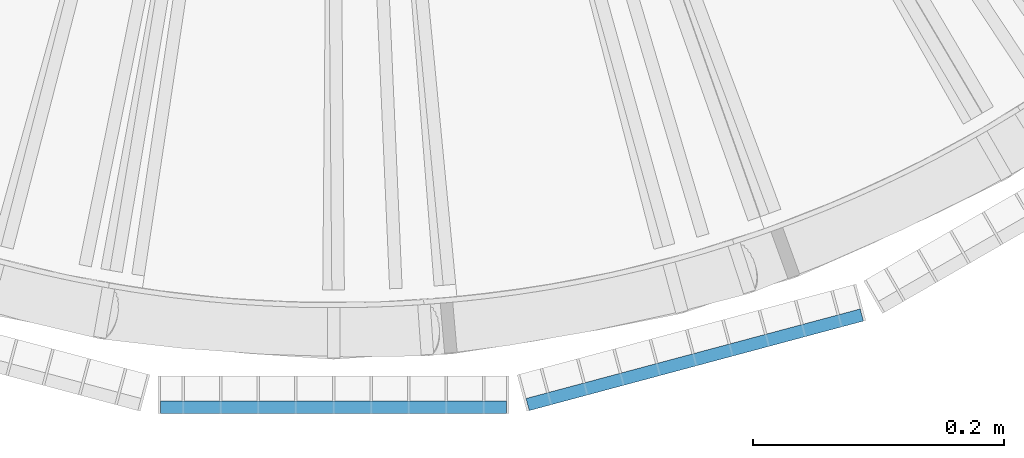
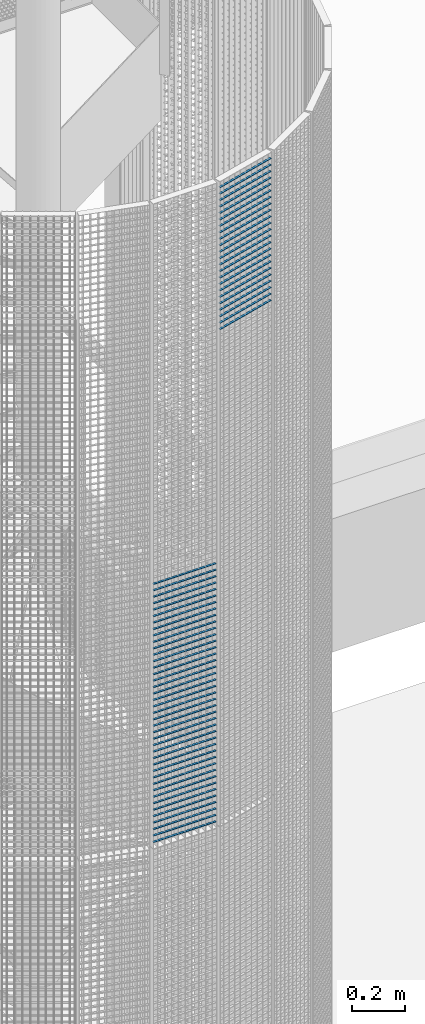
# One storey, part 376 of 1148: 64 beams, 2 elements without a shape of their own.
"""IFC2X3 building model written with IfcOpenShell, lengths in millimetres."""

from ifc_helpers import new_model, si_unit, frame, origin_with_axes, origin_2d_with_axis, place, context, subcontext, project, spatial, rectangle, extrude, material, type_object, element, aggregate, save


model = new_model("IFC2X3")

# Units and contexts
model_context = context("Model", 3, precision=1e-05, world=origin_with_axes())
body_context = subcontext(model_context, "Body", "Model", "MODEL_VIEW")
ifc_project = project(units=[si_unit("LENGTHUNIT", "METRE", prefix="MILLI"), si_unit("AREAUNIT", "SQUARE_METRE"), si_unit("VOLUMEUNIT", "CUBIC_METRE"), si_unit("MASSUNIT", "GRAM", prefix="KILO"), si_unit("TIMEUNIT", "SECOND"), si_unit("PLANEANGLEUNIT", "RADIAN"), si_unit("SOLIDANGLEUNIT", "STERADIAN"), si_unit("THERMODYNAMICTEMPERATUREUNIT", "DEGREE_CELSIUS"), si_unit("LUMINOUSINTENSITYUNIT", "LUMEN")], contexts=[model_context])

# Site, building, storey
site_placement = place(None, origin_with_axes())
site = spatial("IfcSite", under=ifc_project, at=site_placement, Name="Undefined", CompositionType="ELEMENT")
building_placement = place(site_placement, origin_with_axes())
building = spatial("IfcBuilding", under=site, at=building_placement, Name="Undefined", CompositionType="ELEMENT")
storey_placement = place(building_placement, origin_with_axes())
storey = spatial("IfcBuildingStorey", under=building, at=storey_placement, Name="Undefined", CompositionType="ELEMENT", Elevation=0.0)

# Assembly, beams
assembly_1_placement = place(storey_placement, origin_with_axes())
assembly_1 = element("IfcElementAssembly", 1, at=assembly_1_placement, inside=storey, Name="BORDURE", AssemblyPlace="NOTDEFINED", PredefinedType="NOTDEFINED")
ifc_material = material(Name="STEEL/S235JR")
beam_type = type_object("IfcBeamType", Name="PL2*10", PredefinedType="NOTDEFINED")
beam_1_placement = place(assembly_1_placement, frame((21737.9960033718, -1113.47999999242, 16230.0), z_axis=(0.0, -1.0, 0.0), x_axis=(-1.0, 0.0, 0.0)))
beam_1 = element("IfcBeam", 2, at=beam_1_placement, type_object=beam_type, material=ifc_material, Name="ENTRETOISE", context=body_context, shape_type="SweptSolid", body=[
    extrude(rectangle(XDim=2.0, YDim=10.0, at=origin_2d_with_axis()), frame((275.999999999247, 9.09494701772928e-13, 1.53210777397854e-14), z_axis=(-1.0, 0.0, 0.0), x_axis=(0.0, -1.0, 0.0)), (0.0, 0.0, 1.0), 276.0),
])
beam_2_placement = place(assembly_1_placement, frame((21737.9960033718, -1113.47999999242, 16200.0), z_axis=(0.0, -1.0, 0.0), x_axis=(-1.0, 0.0, 0.0)))
beam_2 = element("IfcBeam", 3, at=beam_2_placement, type_object=beam_type, material=ifc_material, Name="ENTRETOISE", context=body_context, shape_type="SweptSolid", body=[
    extrude(rectangle(XDim=2.0, YDim=10.0, at=origin_2d_with_axis()), frame((275.999999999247, 9.09494701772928e-13, 1.53210777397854e-14), z_axis=(-1.0, 0.0, 0.0), x_axis=(0.0, -1.0, 0.0)), (0.0, 0.0, 1.0), 276.0),
])
beam_3_placement = place(assembly_1_placement, frame((21737.9960033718, -1113.47999999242, 16170.0), z_axis=(0.0, -1.0, 0.0), x_axis=(-1.0, 0.0, 0.0)))
beam_3 = element("IfcBeam", 4, at=beam_3_placement, type_object=beam_type, material=ifc_material, Name="ENTRETOISE", context=body_context, shape_type="SweptSolid", body=[
    extrude(rectangle(XDim=2.0, YDim=10.0, at=origin_2d_with_axis()), frame((275.999999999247, 9.09494701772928e-13, 1.53210777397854e-14), z_axis=(-1.0, 0.0, 0.0), x_axis=(0.0, -1.0, 0.0)), (0.0, 0.0, 1.0), 276.0),
])
beam_4_placement = place(assembly_1_placement, frame((21737.9960033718, -1113.47999999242, 16140.0), z_axis=(0.0, -1.0, 0.0), x_axis=(-1.0, 0.0, 0.0)))
beam_4 = element("IfcBeam", 5, at=beam_4_placement, type_object=beam_type, material=ifc_material, Name="ENTRETOISE", context=body_context, shape_type="SweptSolid", body=[
    extrude(rectangle(XDim=2.0, YDim=10.0, at=origin_2d_with_axis()), frame((275.999999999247, 9.09494701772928e-13, 1.53210777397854e-14), z_axis=(-1.0, 0.0, 0.0), x_axis=(0.0, -1.0, 0.0)), (0.0, 0.0, 1.0), 276.0),
])
beam_5_placement = place(assembly_1_placement, frame((21737.9960033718, -1113.47999999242, 15720.0), z_axis=(0.0, -1.0, 0.0), x_axis=(-1.0, 0.0, 0.0)))
beam_5 = element("IfcBeam", 6, at=beam_5_placement, type_object=beam_type, material=ifc_material, Name="ENTRETOISE", context=body_context, shape_type="SweptSolid", body=[
    extrude(rectangle(XDim=2.0, YDim=10.0, at=origin_2d_with_axis()), frame((275.999999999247, 9.09494701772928e-13, 1.53210777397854e-14), z_axis=(-1.0, 0.0, 0.0), x_axis=(0.0, -1.0, 0.0)), (0.0, 0.0, 1.0), 276.0),
])
beam_6_placement = place(assembly_1_placement, frame((21737.9960033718, -1113.47999999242, 15690.0), z_axis=(0.0, -1.0, 0.0), x_axis=(-1.0, 0.0, 0.0)))
beam_6 = element("IfcBeam", 7, at=beam_6_placement, type_object=beam_type, material=ifc_material, Name="ENTRETOISE", context=body_context, shape_type="SweptSolid", body=[
    extrude(rectangle(XDim=2.0, YDim=10.0, at=origin_2d_with_axis()), frame((275.999999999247, 9.09494701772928e-13, 1.53210777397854e-14), z_axis=(-1.0, 0.0, 0.0), x_axis=(0.0, -1.0, 0.0)), (0.0, 0.0, 1.0), 276.0),
])
beam_7_placement = place(assembly_1_placement, frame((21737.9960033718, -1113.47999999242, 15750.0), z_axis=(0.0, -1.0, 0.0), x_axis=(-1.0, 0.0, 0.0)))
beam_7 = element("IfcBeam", 8, at=beam_7_placement, type_object=beam_type, material=ifc_material, Name="ENTRETOISE", context=body_context, shape_type="SweptSolid", body=[
    extrude(rectangle(XDim=2.0, YDim=10.0, at=origin_2d_with_axis()), frame((275.999999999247, 9.09494701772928e-13, 1.53210777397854e-14), z_axis=(-1.0, 0.0, 0.0), x_axis=(0.0, -1.0, 0.0)), (0.0, 0.0, 1.0), 276.0),
])
beam_8_placement = place(assembly_1_placement, frame((21737.9960033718, -1113.47999999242, 15660.0), z_axis=(0.0, -1.0, 0.0), x_axis=(-1.0, 0.0, 0.0)))
beam_8 = element("IfcBeam", 9, at=beam_8_placement, type_object=beam_type, material=ifc_material, Name="ENTRETOISE", context=body_context, shape_type="SweptSolid", body=[
    extrude(rectangle(XDim=2.0, YDim=10.0, at=origin_2d_with_axis()), frame((275.999999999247, 9.09494701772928e-13, 1.53210777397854e-14), z_axis=(-1.0, 0.0, 0.0), x_axis=(0.0, -1.0, 0.0)), (0.0, 0.0, 1.0), 276.0),
])
beam_9_placement = place(assembly_1_placement, frame((21737.9960033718, -1113.47999999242, 15630.0), z_axis=(0.0, -1.0, 0.0), x_axis=(-1.0, 0.0, 0.0)))
beam_9 = element("IfcBeam", 10, at=beam_9_placement, type_object=beam_type, material=ifc_material, Name="ENTRETOISE", context=body_context, shape_type="SweptSolid", body=[
    extrude(rectangle(XDim=2.0, YDim=10.0, at=origin_2d_with_axis()), frame((275.999999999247, 9.09494701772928e-13, 1.53210777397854e-14), z_axis=(-1.0, 0.0, 0.0), x_axis=(0.0, -1.0, 0.0)), (0.0, 0.0, 1.0), 276.0),
])
beam_10_placement = place(assembly_1_placement, frame((21737.9960033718, -1113.47999999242, 15780.0), z_axis=(0.0, -1.0, 0.0), x_axis=(-1.0, 0.0, 0.0)))
beam_10 = element("IfcBeam", 11, at=beam_10_placement, type_object=beam_type, material=ifc_material, Name="ENTRETOISE", context=body_context, shape_type="SweptSolid", body=[
    extrude(rectangle(XDim=2.0, YDim=10.0, at=origin_2d_with_axis()), frame((275.999999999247, 9.09494701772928e-13, 1.53210777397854e-14), z_axis=(-1.0, 0.0, 0.0), x_axis=(0.0, -1.0, 0.0)), (0.0, 0.0, 1.0), 276.0),
])
beam_11_placement = place(assembly_1_placement, frame((21737.9960033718, -1113.47999999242, 15600.0), z_axis=(0.0, -1.0, 0.0), x_axis=(-1.0, 0.0, 0.0)))
beam_11 = element("IfcBeam", 12, at=beam_11_placement, type_object=beam_type, material=ifc_material, Name="ENTRETOISE", context=body_context, shape_type="SweptSolid", body=[
    extrude(rectangle(XDim=2.0, YDim=10.0, at=origin_2d_with_axis()), frame((275.999999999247, 9.09494701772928e-13, 1.53210777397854e-14), z_axis=(-1.0, 0.0, 0.0), x_axis=(0.0, -1.0, 0.0)), (0.0, 0.0, 1.0), 276.0),
])
beam_12_placement = place(assembly_1_placement, frame((21737.9960033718, -1113.47999999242, 15810.0), z_axis=(0.0, -1.0, 0.0), x_axis=(-1.0, 0.0, 0.0)))
beam_12 = element("IfcBeam", 13, at=beam_12_placement, type_object=beam_type, material=ifc_material, Name="ENTRETOISE", context=body_context, shape_type="SweptSolid", body=[
    extrude(rectangle(XDim=2.0, YDim=10.0, at=origin_2d_with_axis()), frame((275.999999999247, 9.09494701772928e-13, 1.53210777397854e-14), z_axis=(-1.0, 0.0, 0.0), x_axis=(0.0, -1.0, 0.0)), (0.0, 0.0, 1.0), 276.0),
])
beam_13_placement = place(assembly_1_placement, frame((21737.9960033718, -1113.47999999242, 15570.0), z_axis=(0.0, -1.0, 0.0), x_axis=(-1.0, 0.0, 0.0)))
beam_13 = element("IfcBeam", 14, at=beam_13_placement, type_object=beam_type, material=ifc_material, Name="ENTRETOISE", context=body_context, shape_type="SweptSolid", body=[
    extrude(rectangle(XDim=2.0, YDim=10.0, at=origin_2d_with_axis()), frame((275.999999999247, 9.09494701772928e-13, 1.53210777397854e-14), z_axis=(-1.0, 0.0, 0.0), x_axis=(0.0, -1.0, 0.0)), (0.0, 0.0, 1.0), 276.0),
])
beam_14_placement = place(assembly_1_placement, frame((21737.9960033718, -1113.47999999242, 15540.0), z_axis=(0.0, -1.0, 0.0), x_axis=(-1.0, 0.0, 0.0)))
beam_14 = element("IfcBeam", 15, at=beam_14_placement, type_object=beam_type, material=ifc_material, Name="ENTRETOISE", context=body_context, shape_type="SweptSolid", body=[
    extrude(rectangle(XDim=2.0, YDim=10.0, at=origin_2d_with_axis()), frame((275.999999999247, 9.09494701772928e-13, 1.53210777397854e-14), z_axis=(-1.0, 0.0, 0.0), x_axis=(0.0, -1.0, 0.0)), (0.0, 0.0, 1.0), 276.0),
])
beam_15_placement = place(assembly_1_placement, frame((21737.9960033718, -1113.47999999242, 15840.0), z_axis=(0.0, -1.0, 0.0), x_axis=(-1.0, 0.0, 0.0)))
beam_15 = element("IfcBeam", 16, at=beam_15_placement, type_object=beam_type, material=ifc_material, Name="ENTRETOISE", context=body_context, shape_type="SweptSolid", body=[
    extrude(rectangle(XDim=2.0, YDim=10.0, at=origin_2d_with_axis()), frame((275.999999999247, 9.09494701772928e-13, 1.53210777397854e-14), z_axis=(-1.0, 0.0, 0.0), x_axis=(0.0, -1.0, 0.0)), (0.0, 0.0, 1.0), 276.0),
])
beam_16_placement = place(assembly_1_placement, frame((21737.9960033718, -1113.47999999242, 15510.0), z_axis=(0.0, -1.0, 0.0), x_axis=(-1.0, 0.0, 0.0)))
beam_16 = element("IfcBeam", 17, at=beam_16_placement, type_object=beam_type, material=ifc_material, Name="ENTRETOISE", context=body_context, shape_type="SweptSolid", body=[
    extrude(rectangle(XDim=2.0, YDim=10.0, at=origin_2d_with_axis()), frame((275.999999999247, 9.09494701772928e-13, 1.53210777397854e-14), z_axis=(-1.0, 0.0, 0.0), x_axis=(0.0, -1.0, 0.0)), (0.0, 0.0, 1.0), 276.0),
])
beam_17_placement = place(assembly_1_placement, frame((21737.9960033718, -1113.47999999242, 15480.0), z_axis=(0.0, -1.0, 0.0), x_axis=(-1.0, 0.0, 0.0)))
beam_17 = element("IfcBeam", 18, at=beam_17_placement, type_object=beam_type, material=ifc_material, Name="ENTRETOISE", context=body_context, shape_type="SweptSolid", body=[
    extrude(rectangle(XDim=2.0, YDim=10.0, at=origin_2d_with_axis()), frame((275.999999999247, 9.09494701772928e-13, 1.53210777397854e-14), z_axis=(-1.0, 0.0, 0.0), x_axis=(0.0, -1.0, 0.0)), (0.0, 0.0, 1.0), 276.0),
])
beam_18_placement = place(assembly_1_placement, frame((21737.9960033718, -1113.47999999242, 15870.0), z_axis=(0.0, -1.0, 0.0), x_axis=(-1.0, 0.0, 0.0)))
beam_18 = element("IfcBeam", 19, at=beam_18_placement, type_object=beam_type, material=ifc_material, Name="ENTRETOISE", context=body_context, shape_type="SweptSolid", body=[
    extrude(rectangle(XDim=2.0, YDim=10.0, at=origin_2d_with_axis()), frame((275.999999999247, 9.09494701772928e-13, 1.53210777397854e-14), z_axis=(-1.0, 0.0, 0.0), x_axis=(0.0, -1.0, 0.0)), (0.0, 0.0, 1.0), 276.0),
])
beam_19_placement = place(assembly_1_placement, frame((21737.9960033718, -1113.47999999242, 15450.0), z_axis=(0.0, -1.0, 0.0), x_axis=(-1.0, 0.0, 0.0)))
beam_19 = element("IfcBeam", 20, at=beam_19_placement, type_object=beam_type, material=ifc_material, Name="ENTRETOISE", context=body_context, shape_type="SweptSolid", body=[
    extrude(rectangle(XDim=2.0, YDim=10.0, at=origin_2d_with_axis()), frame((275.999999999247, 9.09494701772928e-13, 1.53210777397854e-14), z_axis=(-1.0, 0.0, 0.0), x_axis=(0.0, -1.0, 0.0)), (0.0, 0.0, 1.0), 276.0),
])
beam_20_placement = place(assembly_1_placement, frame((21737.9960033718, -1113.47999999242, 15420.0), z_axis=(0.0, -1.0, 0.0), x_axis=(-1.0, 0.0, 0.0)))
beam_20 = element("IfcBeam", 21, at=beam_20_placement, type_object=beam_type, material=ifc_material, Name="ENTRETOISE", context=body_context, shape_type="SweptSolid", body=[
    extrude(rectangle(XDim=2.0, YDim=10.0, at=origin_2d_with_axis()), frame((275.999999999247, 9.09494701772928e-13, 1.53210777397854e-14), z_axis=(-1.0, 0.0, 0.0), x_axis=(0.0, -1.0, 0.0)), (0.0, 0.0, 1.0), 276.0),
])
beam_21_placement = place(assembly_1_placement, frame((21737.9960033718, -1113.47999999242, 15900.0), z_axis=(0.0, -1.0, 0.0), x_axis=(-1.0, 0.0, 0.0)))
beam_21 = element("IfcBeam", 22, at=beam_21_placement, type_object=beam_type, material=ifc_material, Name="ENTRETOISE", context=body_context, shape_type="SweptSolid", body=[
    extrude(rectangle(XDim=2.0, YDim=10.0, at=origin_2d_with_axis()), frame((275.999999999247, 9.09494701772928e-13, 1.53210777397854e-14), z_axis=(-1.0, 0.0, 0.0), x_axis=(0.0, -1.0, 0.0)), (0.0, 0.0, 1.0), 276.0),
])
beam_22_placement = place(assembly_1_placement, frame((21737.9960033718, -1113.47999999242, 15390.0), z_axis=(0.0, -1.0, 0.0), x_axis=(-1.0, 0.0, 0.0)))
beam_22 = element("IfcBeam", 23, at=beam_22_placement, type_object=beam_type, material=ifc_material, Name="ENTRETOISE", context=body_context, shape_type="SweptSolid", body=[
    extrude(rectangle(XDim=2.0, YDim=10.0, at=origin_2d_with_axis()), frame((275.999999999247, 9.09494701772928e-13, 1.53210777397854e-14), z_axis=(-1.0, 0.0, 0.0), x_axis=(0.0, -1.0, 0.0)), (0.0, 0.0, 1.0), 276.0),
])
beam_23_placement = place(assembly_1_placement, frame((21737.9960033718, -1113.47999999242, 15930.0), z_axis=(0.0, -1.0, 0.0), x_axis=(-1.0, 0.0, 0.0)))
beam_23 = element("IfcBeam", 24, at=beam_23_placement, type_object=beam_type, material=ifc_material, Name="ENTRETOISE", context=body_context, shape_type="SweptSolid", body=[
    extrude(rectangle(XDim=2.0, YDim=10.0, at=origin_2d_with_axis()), frame((275.999999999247, 9.09494701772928e-13, 1.53210777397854e-14), z_axis=(-1.0, 0.0, 0.0), x_axis=(0.0, -1.0, 0.0)), (0.0, 0.0, 1.0), 276.0),
])
beam_24_placement = place(assembly_1_placement, frame((21737.9960033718, -1113.47999999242, 15360.0), z_axis=(0.0, -1.0, 0.0), x_axis=(-1.0, 0.0, 0.0)))
beam_24 = element("IfcBeam", 25, at=beam_24_placement, type_object=beam_type, material=ifc_material, Name="ENTRETOISE", context=body_context, shape_type="SweptSolid", body=[
    extrude(rectangle(XDim=2.0, YDim=10.0, at=origin_2d_with_axis()), frame((275.999999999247, 9.09494701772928e-13, 1.53210777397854e-14), z_axis=(-1.0, 0.0, 0.0), x_axis=(0.0, -1.0, 0.0)), (0.0, 0.0, 1.0), 276.0),
])
beam_25_placement = place(assembly_1_placement, frame((21737.9960033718, -1113.47999999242, 15330.0), z_axis=(0.0, -1.0, 0.0), x_axis=(-1.0, 0.0, 0.0)))
beam_25 = element("IfcBeam", 26, at=beam_25_placement, type_object=beam_type, material=ifc_material, Name="ENTRETOISE", context=body_context, shape_type="SweptSolid", body=[
    extrude(rectangle(XDim=2.0, YDim=10.0, at=origin_2d_with_axis()), frame((275.999999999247, 9.09494701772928e-13, 1.53210777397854e-14), z_axis=(-1.0, 0.0, 0.0), x_axis=(0.0, -1.0, 0.0)), (0.0, 0.0, 1.0), 276.0),
])
beam_26_placement = place(assembly_1_placement, frame((21737.9960033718, -1113.47999999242, 15960.0), z_axis=(0.0, -1.0, 0.0), x_axis=(-1.0, 0.0, 0.0)))
beam_26 = element("IfcBeam", 27, at=beam_26_placement, type_object=beam_type, material=ifc_material, Name="ENTRETOISE", context=body_context, shape_type="SweptSolid", body=[
    extrude(rectangle(XDim=2.0, YDim=10.0, at=origin_2d_with_axis()), frame((275.999999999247, 9.09494701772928e-13, 1.53210777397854e-14), z_axis=(-1.0, 0.0, 0.0), x_axis=(0.0, -1.0, 0.0)), (0.0, 0.0, 1.0), 276.0),
])
beam_27_placement = place(assembly_1_placement, frame((21737.9960033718, -1113.47999999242, 15300.0), z_axis=(0.0, -1.0, 0.0), x_axis=(-1.0, 0.0, 0.0)))
beam_27 = element("IfcBeam", 28, at=beam_27_placement, type_object=beam_type, material=ifc_material, Name="ENTRETOISE", context=body_context, shape_type="SweptSolid", body=[
    extrude(rectangle(XDim=2.0, YDim=10.0, at=origin_2d_with_axis()), frame((275.999999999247, 9.09494701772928e-13, 1.53210777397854e-14), z_axis=(-1.0, 0.0, 0.0), x_axis=(0.0, -1.0, 0.0)), (0.0, 0.0, 1.0), 276.0),
])
beam_28_placement = place(assembly_1_placement, frame((21737.9960033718, -1113.47999999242, 15270.0), z_axis=(0.0, -1.0, 0.0), x_axis=(-1.0, 0.0, 0.0)))
beam_28 = element("IfcBeam", 29, at=beam_28_placement, type_object=beam_type, material=ifc_material, Name="ENTRETOISE", context=body_context, shape_type="SweptSolid", body=[
    extrude(rectangle(XDim=2.0, YDim=10.0, at=origin_2d_with_axis()), frame((275.999999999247, 9.09494701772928e-13, 1.53210777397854e-14), z_axis=(-1.0, 0.0, 0.0), x_axis=(0.0, -1.0, 0.0)), (0.0, 0.0, 1.0), 276.0),
])
beam_29_placement = place(assembly_1_placement, frame((21737.9960033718, -1113.47999999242, 15990.0), z_axis=(0.0, -1.0, 0.0), x_axis=(-1.0, 0.0, 0.0)))
beam_29 = element("IfcBeam", 30, at=beam_29_placement, type_object=beam_type, material=ifc_material, Name="ENTRETOISE", context=body_context, shape_type="SweptSolid", body=[
    extrude(rectangle(XDim=2.0, YDim=10.0, at=origin_2d_with_axis()), frame((275.999999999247, 9.09494701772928e-13, 1.53210777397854e-14), z_axis=(-1.0, 0.0, 0.0), x_axis=(0.0, -1.0, 0.0)), (0.0, 0.0, 1.0), 276.0),
])
beam_30_placement = place(assembly_1_placement, frame((21737.9960033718, -1113.47999999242, 15240.0), z_axis=(0.0, -1.0, 0.0), x_axis=(-1.0, 0.0, 0.0)))
beam_30 = element("IfcBeam", 31, at=beam_30_placement, type_object=beam_type, material=ifc_material, Name="ENTRETOISE", context=body_context, shape_type="SweptSolid", body=[
    extrude(rectangle(XDim=2.0, YDim=10.0, at=origin_2d_with_axis()), frame((275.999999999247, 9.09494701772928e-13, 1.53210777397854e-14), z_axis=(-1.0, 0.0, 0.0), x_axis=(0.0, -1.0, 0.0)), (0.0, 0.0, 1.0), 276.0),
])
beam_31_placement = place(assembly_1_placement, frame((21737.9960033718, -1113.47999999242, 16020.0), z_axis=(0.0, -1.0, 0.0), x_axis=(-1.0, 0.0, 0.0)))
beam_31 = element("IfcBeam", 32, at=beam_31_placement, type_object=beam_type, material=ifc_material, Name="ENTRETOISE", context=body_context, shape_type="SweptSolid", body=[
    extrude(rectangle(XDim=2.0, YDim=10.0, at=origin_2d_with_axis()), frame((275.999999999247, 9.09494701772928e-13, 1.53210777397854e-14), z_axis=(-1.0, 0.0, 0.0), x_axis=(0.0, -1.0, 0.0)), (0.0, 0.0, 1.0), 276.0),
])
beam_32_placement = place(assembly_1_placement, frame((21737.9960033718, -1113.47999999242, 15210.0), z_axis=(0.0, -1.0, 0.0), x_axis=(-1.0, 0.0, 0.0)))
beam_32 = element("IfcBeam", 33, at=beam_32_placement, type_object=beam_type, material=ifc_material, Name="ENTRETOISE", context=body_context, shape_type="SweptSolid", body=[
    extrude(rectangle(XDim=2.0, YDim=10.0, at=origin_2d_with_axis()), frame((275.999999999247, 9.09494701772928e-13, 1.53210777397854e-14), z_axis=(-1.0, 0.0, 0.0), x_axis=(0.0, -1.0, 0.0)), (0.0, 0.0, 1.0), 276.0),
])
beam_33_placement = place(assembly_1_placement, frame((21737.9960033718, -1113.47999999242, 15180.0), z_axis=(0.0, -1.0, 0.0), x_axis=(-1.0, 0.0, 0.0)))
beam_33 = element("IfcBeam", 34, at=beam_33_placement, type_object=beam_type, material=ifc_material, Name="ENTRETOISE", context=body_context, shape_type="SweptSolid", body=[
    extrude(rectangle(XDim=2.0, YDim=10.0, at=origin_2d_with_axis()), frame((275.999999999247, 9.09494701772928e-13, 1.53210777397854e-14), z_axis=(-1.0, 0.0, 0.0), x_axis=(0.0, -1.0, 0.0)), (0.0, 0.0, 1.0), 276.0),
])
beam_34_placement = place(assembly_1_placement, frame((21737.9960033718, -1113.47999999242, 16050.0), z_axis=(0.0, -1.0, 0.0), x_axis=(-1.0, 0.0, 0.0)))
beam_34 = element("IfcBeam", 35, at=beam_34_placement, type_object=beam_type, material=ifc_material, Name="ENTRETOISE", context=body_context, shape_type="SweptSolid", body=[
    extrude(rectangle(XDim=2.0, YDim=10.0, at=origin_2d_with_axis()), frame((275.999999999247, 9.09494701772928e-13, 1.53210777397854e-14), z_axis=(-1.0, 0.0, 0.0), x_axis=(0.0, -1.0, 0.0)), (0.0, 0.0, 1.0), 276.0),
])
beam_35_placement = place(assembly_1_placement, frame((21737.9960033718, -1113.47999999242, 15150.0), z_axis=(0.0, -1.0, 0.0), x_axis=(-1.0, 0.0, 0.0)))
beam_35 = element("IfcBeam", 36, at=beam_35_placement, type_object=beam_type, material=ifc_material, Name="ENTRETOISE", context=body_context, shape_type="SweptSolid", body=[
    extrude(rectangle(XDim=2.0, YDim=10.0, at=origin_2d_with_axis()), frame((275.999999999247, 9.09494701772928e-13, 1.53210777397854e-14), z_axis=(-1.0, 0.0, 0.0), x_axis=(0.0, -1.0, 0.0)), (0.0, 0.0, 1.0), 276.0),
])
beam_36_placement = place(assembly_1_placement, frame((21737.9960033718, -1113.47999999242, 15120.0), z_axis=(0.0, -1.0, 0.0), x_axis=(-1.0, 0.0, 0.0)))
beam_36 = element("IfcBeam", 37, at=beam_36_placement, type_object=beam_type, material=ifc_material, Name="ENTRETOISE", context=body_context, shape_type="SweptSolid", body=[
    extrude(rectangle(XDim=2.0, YDim=10.0, at=origin_2d_with_axis()), frame((275.999999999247, 9.09494701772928e-13, 1.53210777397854e-14), z_axis=(-1.0, 0.0, 0.0), x_axis=(0.0, -1.0, 0.0)), (0.0, 0.0, 1.0), 276.0),
])
beam_37_placement = place(assembly_1_placement, frame((21737.9960033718, -1113.47999999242, 16080.0), z_axis=(0.0, -1.0, 0.0), x_axis=(-1.0, 0.0, 0.0)))
beam_37 = element("IfcBeam", 38, at=beam_37_placement, type_object=beam_type, material=ifc_material, Name="ENTRETOISE", context=body_context, shape_type="SweptSolid", body=[
    extrude(rectangle(XDim=2.0, YDim=10.0, at=origin_2d_with_axis()), frame((275.999999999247, 9.09494701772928e-13, 1.53210777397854e-14), z_axis=(-1.0, 0.0, 0.0), x_axis=(0.0, -1.0, 0.0)), (0.0, 0.0, 1.0), 276.0),
])
beam_38_placement = place(assembly_1_placement, frame((21737.9960033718, -1113.47999999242, 15090.0), z_axis=(0.0, -1.0, 0.0), x_axis=(-1.0, 0.0, 0.0)))
beam_38 = element("IfcBeam", 39, at=beam_38_placement, type_object=beam_type, material=ifc_material, Name="ENTRETOISE", context=body_context, shape_type="SweptSolid", body=[
    extrude(rectangle(XDim=2.0, YDim=10.0, at=origin_2d_with_axis()), frame((275.999999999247, 9.09494701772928e-13, 1.53210777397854e-14), z_axis=(-1.0, 0.0, 0.0), x_axis=(0.0, -1.0, 0.0)), (0.0, 0.0, 1.0), 276.0),
])
beam_39_placement = place(assembly_1_placement, frame((21737.9960033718, -1113.47999999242, 15060.0), z_axis=(0.0, -1.0, 0.0), x_axis=(-1.0, 0.0, 0.0)))
beam_39 = element("IfcBeam", 40, at=beam_39_placement, type_object=beam_type, material=ifc_material, Name="ENTRETOISE", context=body_context, shape_type="SweptSolid", body=[
    extrude(rectangle(XDim=2.0, YDim=10.0, at=origin_2d_with_axis()), frame((275.999999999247, 9.09494701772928e-13, 1.53210777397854e-14), z_axis=(-1.0, 0.0, 0.0), x_axis=(0.0, -1.0, 0.0)), (0.0, 0.0, 1.0), 276.0),
])
beam_40_placement = place(assembly_1_placement, frame((21737.9960033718, -1113.47999999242, 16110.0), z_axis=(0.0, -1.0, 0.0), x_axis=(-1.0, 0.0, 0.0)))
beam_40 = element("IfcBeam", 41, at=beam_40_placement, type_object=beam_type, material=ifc_material, Name="ENTRETOISE", context=body_context, shape_type="SweptSolid", body=[
    extrude(rectangle(XDim=2.0, YDim=10.0, at=origin_2d_with_axis()), frame((275.999999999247, 9.09494701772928e-13, 1.53210777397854e-14), z_axis=(-1.0, 0.0, 0.0), x_axis=(0.0, -1.0, 0.0)), (0.0, 0.0, 1.0), 276.0),
])
beam_41_placement = place(assembly_1_placement, frame((21737.9960033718, -1113.47999999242, 15030.0), z_axis=(0.0, -1.0, 0.0), x_axis=(-1.0, 0.0, 0.0)))
beam_41 = element("IfcBeam", 42, at=beam_41_placement, type_object=beam_type, material=ifc_material, Name="ENTRETOISE", context=body_context, shape_type="SweptSolid", body=[
    extrude(rectangle(XDim=2.0, YDim=10.0, at=origin_2d_with_axis()), frame((275.999999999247, 9.09494701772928e-13, 1.53210777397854e-14), z_axis=(-1.0, 0.0, 0.0), x_axis=(0.0, -1.0, 0.0)), (0.0, 0.0, 1.0), 276.0),
])
aggregate(assembly_1, [beam_1, beam_2, beam_3, beam_4, beam_5, beam_6, beam_7, beam_8, beam_9, beam_10, beam_11, beam_12, beam_13, beam_14, beam_15, beam_16, beam_17, beam_18, beam_19, beam_20, beam_21, beam_22, beam_23, beam_24, beam_25, beam_26, beam_27, beam_28, beam_29, beam_30, beam_31, beam_32, beam_33, beam_34, beam_35, beam_36, beam_37, beam_38, beam_39, beam_40, beam_41])

assembly_2_placement = place(storey_placement, origin_with_axes())
assembly_2 = element("IfcElementAssembly", 43, at=assembly_2_placement, inside=storey, Name="BORDURE", AssemblyPlace="NOTDEFINED", PredefinedType="NOTDEFINED")
beam_42_placement = place(assembly_2_placement, frame((22021.4837339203, -1039.82309522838, 17970.0), z_axis=(0.258819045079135, -0.965925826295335, 0.0), x_axis=(-0.965925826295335, -0.258819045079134, 0.0)))
beam_42 = element("IfcBeam", 44, at=beam_42_placement, type_object=beam_type, material=ifc_material, Name="ENTRETOISE", context=body_context, shape_type="SweptSolid", body=[
    extrude(rectangle(XDim=2.0, YDim=10.0, at=origin_2d_with_axis()), frame((275.999999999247, 9.09494701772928e-13, 1.53210777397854e-14), z_axis=(-1.0, 0.0, 0.0), x_axis=(0.0, -1.0, 0.0)), (0.0, 0.0, 1.0), 276.0),
])
beam_43_placement = place(assembly_2_placement, frame((22021.4837339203, -1039.82309522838, 17940.0), z_axis=(0.258819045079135, -0.965925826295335, 0.0), x_axis=(-0.965925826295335, -0.258819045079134, 0.0)))
beam_43 = element("IfcBeam", 45, at=beam_43_placement, type_object=beam_type, material=ifc_material, Name="ENTRETOISE", context=body_context, shape_type="SweptSolid", body=[
    extrude(rectangle(XDim=2.0, YDim=10.0, at=origin_2d_with_axis()), frame((275.999999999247, 9.09494701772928e-13, 1.53210777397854e-14), z_axis=(-1.0, 0.0, 0.0), x_axis=(0.0, -1.0, 0.0)), (0.0, 0.0, 1.0), 276.0),
])
beam_44_placement = place(assembly_2_placement, frame((22021.4837339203, -1039.82309522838, 17910.0), z_axis=(0.258819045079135, -0.965925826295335, 0.0), x_axis=(-0.965925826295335, -0.258819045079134, 0.0)))
beam_44 = element("IfcBeam", 46, at=beam_44_placement, type_object=beam_type, material=ifc_material, Name="ENTRETOISE", context=body_context, shape_type="SweptSolid", body=[
    extrude(rectangle(XDim=2.0, YDim=10.0, at=origin_2d_with_axis()), frame((275.999999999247, 9.09494701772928e-13, 1.53210777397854e-14), z_axis=(-1.0, 0.0, 0.0), x_axis=(0.0, -1.0, 0.0)), (0.0, 0.0, 1.0), 276.0),
])
beam_45_placement = place(assembly_2_placement, frame((22021.4837339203, -1039.82309522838, 17880.0), z_axis=(0.258819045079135, -0.965925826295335, 0.0), x_axis=(-0.965925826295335, -0.258819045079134, 0.0)))
beam_45 = element("IfcBeam", 47, at=beam_45_placement, type_object=beam_type, material=ifc_material, Name="ENTRETOISE", context=body_context, shape_type="SweptSolid", body=[
    extrude(rectangle(XDim=2.0, YDim=10.0, at=origin_2d_with_axis()), frame((275.999999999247, 9.09494701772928e-13, 1.53210777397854e-14), z_axis=(-1.0, 0.0, 0.0), x_axis=(0.0, -1.0, 0.0)), (0.0, 0.0, 1.0), 276.0),
])
beam_46_placement = place(assembly_2_placement, frame((22021.4837339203, -1039.82309522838, 17850.0), z_axis=(0.258819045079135, -0.965925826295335, 0.0), x_axis=(-0.965925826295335, -0.258819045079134, 0.0)))
beam_46 = element("IfcBeam", 48, at=beam_46_placement, type_object=beam_type, material=ifc_material, Name="ENTRETOISE", context=body_context, shape_type="SweptSolid", body=[
    extrude(rectangle(XDim=2.0, YDim=10.0, at=origin_2d_with_axis()), frame((275.999999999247, 9.09494701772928e-13, 1.53210777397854e-14), z_axis=(-1.0, 0.0, 0.0), x_axis=(0.0, -1.0, 0.0)), (0.0, 0.0, 1.0), 276.0),
])
beam_47_placement = place(assembly_2_placement, frame((22021.4837339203, -1039.82309522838, 17820.0), z_axis=(0.258819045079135, -0.965925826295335, 0.0), x_axis=(-0.965925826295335, -0.258819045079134, 0.0)))
beam_47 = element("IfcBeam", 49, at=beam_47_placement, type_object=beam_type, material=ifc_material, Name="ENTRETOISE", context=body_context, shape_type="SweptSolid", body=[
    extrude(rectangle(XDim=2.0, YDim=10.0, at=origin_2d_with_axis()), frame((275.999999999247, 9.09494701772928e-13, 1.53210777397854e-14), z_axis=(-1.0, 0.0, 0.0), x_axis=(0.0, -1.0, 0.0)), (0.0, 0.0, 1.0), 276.0),
])
beam_48_placement = place(assembly_2_placement, frame((22021.4837339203, -1039.82309522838, 17790.0), z_axis=(0.258819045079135, -0.965925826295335, 0.0), x_axis=(-0.965925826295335, -0.258819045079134, 0.0)))
beam_48 = element("IfcBeam", 50, at=beam_48_placement, type_object=beam_type, material=ifc_material, Name="ENTRETOISE", context=body_context, shape_type="SweptSolid", body=[
    extrude(rectangle(XDim=2.0, YDim=10.0, at=origin_2d_with_axis()), frame((275.999999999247, 9.09494701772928e-13, 1.53210777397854e-14), z_axis=(-1.0, 0.0, 0.0), x_axis=(0.0, -1.0, 0.0)), (0.0, 0.0, 1.0), 276.0),
])
beam_49_placement = place(assembly_2_placement, frame((22021.4837339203, -1039.82309522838, 17760.0), z_axis=(0.258819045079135, -0.965925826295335, 0.0), x_axis=(-0.965925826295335, -0.258819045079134, 0.0)))
beam_49 = element("IfcBeam", 51, at=beam_49_placement, type_object=beam_type, material=ifc_material, Name="ENTRETOISE", context=body_context, shape_type="SweptSolid", body=[
    extrude(rectangle(XDim=2.0, YDim=10.0, at=origin_2d_with_axis()), frame((275.999999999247, 9.09494701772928e-13, 1.53210777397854e-14), z_axis=(-1.0, 0.0, 0.0), x_axis=(0.0, -1.0, 0.0)), (0.0, 0.0, 1.0), 276.0),
])
beam_50_placement = place(assembly_2_placement, frame((22021.4837339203, -1039.82309522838, 17730.0), z_axis=(0.258819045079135, -0.965925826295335, 0.0), x_axis=(-0.965925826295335, -0.258819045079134, 0.0)))
beam_50 = element("IfcBeam", 52, at=beam_50_placement, type_object=beam_type, material=ifc_material, Name="ENTRETOISE", context=body_context, shape_type="SweptSolid", body=[
    extrude(rectangle(XDim=2.0, YDim=10.0, at=origin_2d_with_axis()), frame((275.999999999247, 9.09494701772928e-13, 1.53210777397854e-14), z_axis=(-1.0, 0.0, 0.0), x_axis=(0.0, -1.0, 0.0)), (0.0, 0.0, 1.0), 276.0),
])
beam_51_placement = place(assembly_2_placement, frame((22021.4837339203, -1039.82309522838, 17700.0), z_axis=(0.258819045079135, -0.965925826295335, 0.0), x_axis=(-0.965925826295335, -0.258819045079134, 0.0)))
beam_51 = element("IfcBeam", 53, at=beam_51_placement, type_object=beam_type, material=ifc_material, Name="ENTRETOISE", context=body_context, shape_type="SweptSolid", body=[
    extrude(rectangle(XDim=2.0, YDim=10.0, at=origin_2d_with_axis()), frame((275.999999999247, 9.09494701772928e-13, 1.53210777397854e-14), z_axis=(-1.0, 0.0, 0.0), x_axis=(0.0, -1.0, 0.0)), (0.0, 0.0, 1.0), 276.0),
])
beam_52_placement = place(assembly_2_placement, frame((22021.4837339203, -1039.82309522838, 17670.0), z_axis=(0.258819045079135, -0.965925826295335, 0.0), x_axis=(-0.965925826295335, -0.258819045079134, 0.0)))
beam_52 = element("IfcBeam", 54, at=beam_52_placement, type_object=beam_type, material=ifc_material, Name="ENTRETOISE", context=body_context, shape_type="SweptSolid", body=[
    extrude(rectangle(XDim=2.0, YDim=10.0, at=origin_2d_with_axis()), frame((275.999999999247, 9.09494701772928e-13, 1.53210777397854e-14), z_axis=(-1.0, 0.0, 0.0), x_axis=(0.0, -1.0, 0.0)), (0.0, 0.0, 1.0), 276.0),
])
beam_53_placement = place(assembly_2_placement, frame((22021.4837339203, -1039.82309522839, 17640.0), z_axis=(0.258819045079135, -0.965925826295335, 0.0), x_axis=(-0.965925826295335, -0.258819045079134, 0.0)))
beam_53 = element("IfcBeam", 55, at=beam_53_placement, type_object=beam_type, material=ifc_material, Name="ENTRETOISE", context=body_context, shape_type="SweptSolid", body=[
    extrude(rectangle(XDim=2.0, YDim=10.0, at=origin_2d_with_axis()), frame((275.999999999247, 9.09494701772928e-13, 1.53210777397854e-14), z_axis=(-1.0, 0.0, 0.0), x_axis=(0.0, -1.0, 0.0)), (0.0, 0.0, 1.0), 276.0),
])
beam_54_placement = place(assembly_2_placement, frame((22021.4837339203, -1039.82309522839, 17610.0), z_axis=(0.258819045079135, -0.965925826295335, 0.0), x_axis=(-0.965925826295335, -0.258819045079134, 0.0)))
beam_54 = element("IfcBeam", 56, at=beam_54_placement, type_object=beam_type, material=ifc_material, Name="ENTRETOISE", context=body_context, shape_type="SweptSolid", body=[
    extrude(rectangle(XDim=2.0, YDim=10.0, at=origin_2d_with_axis()), frame((275.999999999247, 9.09494701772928e-13, 1.53210777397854e-14), z_axis=(-1.0, 0.0, 0.0), x_axis=(0.0, -1.0, 0.0)), (0.0, 0.0, 1.0), 276.0),
])
beam_55_placement = place(assembly_2_placement, frame((22021.4837339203, -1039.82309522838, 17580.0), z_axis=(0.258819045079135, -0.965925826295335, 0.0), x_axis=(-0.965925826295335, -0.258819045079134, 0.0)))
beam_55 = element("IfcBeam", 57, at=beam_55_placement, type_object=beam_type, material=ifc_material, Name="ENTRETOISE", context=body_context, shape_type="SweptSolid", body=[
    extrude(rectangle(XDim=2.0, YDim=10.0, at=origin_2d_with_axis()), frame((275.999999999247, 9.09494701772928e-13, 1.53210777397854e-14), z_axis=(-1.0, 0.0, 0.0), x_axis=(0.0, -1.0, 0.0)), (0.0, 0.0, 1.0), 276.0),
])
beam_56_placement = place(assembly_2_placement, frame((22021.4837339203, -1039.82309522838, 17550.0), z_axis=(0.258819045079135, -0.965925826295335, 0.0), x_axis=(-0.965925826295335, -0.258819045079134, 0.0)))
beam_56 = element("IfcBeam", 58, at=beam_56_placement, type_object=beam_type, material=ifc_material, Name="ENTRETOISE", context=body_context, shape_type="SweptSolid", body=[
    extrude(rectangle(XDim=2.0, YDim=10.0, at=origin_2d_with_axis()), frame((275.999999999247, 9.09494701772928e-13, 1.53210777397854e-14), z_axis=(-1.0, 0.0, 0.0), x_axis=(0.0, -1.0, 0.0)), (0.0, 0.0, 1.0), 276.0),
])
beam_57_placement = place(assembly_2_placement, frame((22021.4837339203, -1039.82309522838, 17520.0), z_axis=(0.258819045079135, -0.965925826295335, 0.0), x_axis=(-0.965925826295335, -0.258819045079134, 0.0)))
beam_57 = element("IfcBeam", 59, at=beam_57_placement, type_object=beam_type, material=ifc_material, Name="ENTRETOISE", context=body_context, shape_type="SweptSolid", body=[
    extrude(rectangle(XDim=2.0, YDim=10.0, at=origin_2d_with_axis()), frame((275.999999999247, 9.09494701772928e-13, 1.53210777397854e-14), z_axis=(-1.0, 0.0, 0.0), x_axis=(0.0, -1.0, 0.0)), (0.0, 0.0, 1.0), 276.0),
])
beam_58_placement = place(assembly_2_placement, frame((22021.4837339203, -1039.82309522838, 17490.0), z_axis=(0.258819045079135, -0.965925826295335, 0.0), x_axis=(-0.965925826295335, -0.258819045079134, 0.0)))
beam_58 = element("IfcBeam", 60, at=beam_58_placement, type_object=beam_type, material=ifc_material, Name="ENTRETOISE", context=body_context, shape_type="SweptSolid", body=[
    extrude(rectangle(XDim=2.0, YDim=10.0, at=origin_2d_with_axis()), frame((275.999999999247, 9.09494701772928e-13, 1.53210777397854e-14), z_axis=(-1.0, 0.0, 0.0), x_axis=(0.0, -1.0, 0.0)), (0.0, 0.0, 1.0), 276.0),
])
beam_59_placement = place(assembly_2_placement, frame((22021.4837339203, -1039.82309522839, 17460.0), z_axis=(0.258819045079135, -0.965925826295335, 0.0), x_axis=(-0.965925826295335, -0.258819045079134, 0.0)))
beam_59 = element("IfcBeam", 61, at=beam_59_placement, type_object=beam_type, material=ifc_material, Name="ENTRETOISE", context=body_context, shape_type="SweptSolid", body=[
    extrude(rectangle(XDim=2.0, YDim=10.0, at=origin_2d_with_axis()), frame((275.999999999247, 9.09494701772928e-13, 1.53210777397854e-14), z_axis=(-1.0, 0.0, 0.0), x_axis=(0.0, -1.0, 0.0)), (0.0, 0.0, 1.0), 276.0),
])
beam_60_placement = place(assembly_2_placement, frame((22021.4837339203, -1039.82309522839, 17430.0), z_axis=(0.258819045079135, -0.965925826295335, 0.0), x_axis=(-0.965925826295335, -0.258819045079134, 0.0)))
beam_60 = element("IfcBeam", 62, at=beam_60_placement, type_object=beam_type, material=ifc_material, Name="ENTRETOISE", context=body_context, shape_type="SweptSolid", body=[
    extrude(rectangle(XDim=2.0, YDim=10.0, at=origin_2d_with_axis()), frame((275.999999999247, 9.09494701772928e-13, 1.53210777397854e-14), z_axis=(-1.0, 0.0, 0.0), x_axis=(0.0, -1.0, 0.0)), (0.0, 0.0, 1.0), 276.0),
])
beam_61_placement = place(assembly_2_placement, frame((22021.4837339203, -1039.82309522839, 17400.0), z_axis=(0.258819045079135, -0.965925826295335, 0.0), x_axis=(-0.965925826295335, -0.258819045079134, 0.0)))
beam_61 = element("IfcBeam", 63, at=beam_61_placement, type_object=beam_type, material=ifc_material, Name="ENTRETOISE", context=body_context, shape_type="SweptSolid", body=[
    extrude(rectangle(XDim=2.0, YDim=10.0, at=origin_2d_with_axis()), frame((275.999999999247, 9.09494701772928e-13, 1.53210777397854e-14), z_axis=(-1.0, 0.0, 0.0), x_axis=(0.0, -1.0, 0.0)), (0.0, 0.0, 1.0), 276.0),
])
beam_62_placement = place(assembly_2_placement, frame((22021.4837339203, -1039.82309522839, 17370.0), z_axis=(0.258819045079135, -0.965925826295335, 0.0), x_axis=(-0.965925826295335, -0.258819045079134, 0.0)))
beam_62 = element("IfcBeam", 64, at=beam_62_placement, type_object=beam_type, material=ifc_material, Name="ENTRETOISE", context=body_context, shape_type="SweptSolid", body=[
    extrude(rectangle(XDim=2.0, YDim=10.0, at=origin_2d_with_axis()), frame((275.999999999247, 9.09494701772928e-13, 1.53210777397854e-14), z_axis=(-1.0, 0.0, 0.0), x_axis=(0.0, -1.0, 0.0)), (0.0, 0.0, 1.0), 276.0),
])
beam_63_placement = place(assembly_2_placement, frame((22021.4837339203, -1039.82309522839, 17340.0), z_axis=(0.258819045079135, -0.965925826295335, 0.0), x_axis=(-0.965925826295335, -0.258819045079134, 0.0)))
beam_63 = element("IfcBeam", 65, at=beam_63_placement, type_object=beam_type, material=ifc_material, Name="ENTRETOISE", context=body_context, shape_type="SweptSolid", body=[
    extrude(rectangle(XDim=2.0, YDim=10.0, at=origin_2d_with_axis()), frame((275.999999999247, 9.09494701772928e-13, 1.53210777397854e-14), z_axis=(-1.0, 0.0, 0.0), x_axis=(0.0, -1.0, 0.0)), (0.0, 0.0, 1.0), 276.0),
])
beam_64_placement = place(assembly_2_placement, frame((22021.4837339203, -1039.82309522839, 17310.0), z_axis=(0.258819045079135, -0.965925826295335, 0.0), x_axis=(-0.965925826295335, -0.258819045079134, 0.0)))
beam_64 = element("IfcBeam", 66, at=beam_64_placement, type_object=beam_type, material=ifc_material, Name="ENTRETOISE", context=body_context, shape_type="SweptSolid", body=[
    extrude(rectangle(XDim=2.0, YDim=10.0, at=origin_2d_with_axis()), frame((275.999999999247, 9.09494701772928e-13, 1.53210777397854e-14), z_axis=(-1.0, 0.0, 0.0), x_axis=(0.0, -1.0, 0.0)), (0.0, 0.0, 1.0), 276.0),
])
aggregate(assembly_2, [beam_42, beam_43, beam_44, beam_45, beam_46, beam_47, beam_48, beam_49, beam_50, beam_51, beam_52, beam_53, beam_54, beam_55, beam_56, beam_57, beam_58, beam_59, beam_60, beam_61, beam_62, beam_63, beam_64])

save(model, "model.ifc")
